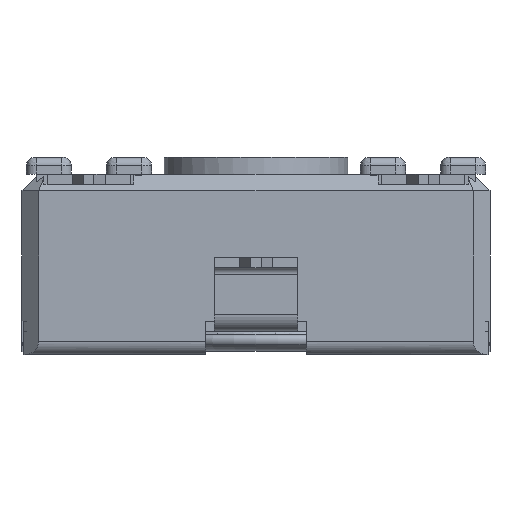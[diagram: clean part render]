
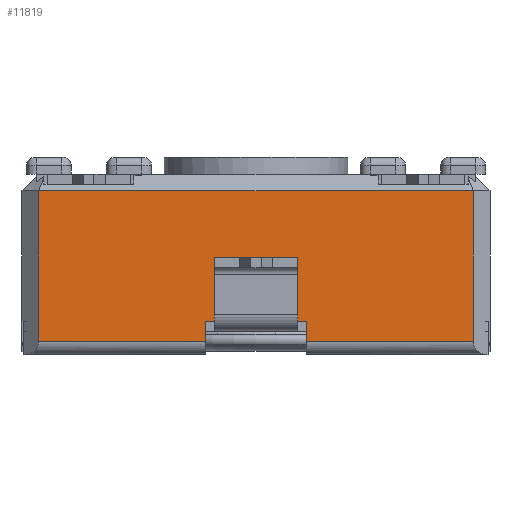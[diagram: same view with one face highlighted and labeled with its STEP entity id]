
A CAD part, front view. The second image highlights one B-rep face of the part: STEP entity #11819.
In plain terms, the highlighted planar face has unit normal (0, -1, 0).
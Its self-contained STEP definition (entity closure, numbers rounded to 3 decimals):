
#675=FACE_OUTER_BOUND('',#1268,.T.);
#1268=EDGE_LOOP('',(#9460,#9461,#9462,#9463,#9464,#9465,#9466,#9467,#9468,
#9469));
#1861=LINE('',#16212,#3104);
#2003=LINE('',#16546,#3246);
#2506=LINE('',#17957,#3749);
#2514=LINE('',#17974,#3757);
#2530=LINE('',#18014,#3773);
#2531=LINE('',#18019,#3774);
#2801=LINE('',#18793,#4044);
#2811=LINE('',#18811,#4054);
#2828=LINE('',#18855,#4071);
#2832=LINE('',#18861,#4075);
#3104=VECTOR('',#13025,10.);
#3246=VECTOR('',#13319,10.);
#3749=VECTOR('',#14492,10.);
#3757=VECTOR('',#14504,10.);
#3773=VECTOR('',#14540,10.);
#3774=VECTOR('',#14547,10.);
#4044=VECTOR('',#15261,10.);
#4054=VECTOR('',#15281,10.);
#4071=VECTOR('',#15322,10.);
#4075=VECTOR('',#15330,10.);
#4358=VERTEX_POINT('',#16210);
#4359=VERTEX_POINT('',#16211);
#4475=VERTEX_POINT('',#16545);
#4903=VERTEX_POINT('',#17954);
#4904=VERTEX_POINT('',#17956);
#4911=VERTEX_POINT('',#17972);
#4925=VERTEX_POINT('',#18013);
#4926=VERTEX_POINT('',#18017);
#5176=VERTEX_POINT('',#18792);
#5184=VERTEX_POINT('',#18853);
#5435=EDGE_CURVE('',#4358,#4359,#1861,.T.);
#5608=EDGE_CURVE('',#4475,#4358,#2003,.T.);
#6252=EDGE_CURVE('',#4903,#4904,#2506,.T.);
#6261=EDGE_CURVE('',#4903,#4911,#2514,.T.);
#6281=EDGE_CURVE('',#4475,#4925,#2530,.T.);
#6284=EDGE_CURVE('',#4925,#4926,#2531,.T.);
#6661=EDGE_CURVE('',#5176,#4904,#2801,.T.);
#6671=EDGE_CURVE('',#4359,#5176,#2811,.T.);
#6689=EDGE_CURVE('',#5184,#4911,#2828,.T.);
#6693=EDGE_CURVE('',#4926,#5184,#2832,.T.);
#9460=ORIENTED_EDGE('',*,*,#6252,.F.);
#9461=ORIENTED_EDGE('',*,*,#6261,.T.);
#9462=ORIENTED_EDGE('',*,*,#6689,.F.);
#9463=ORIENTED_EDGE('',*,*,#6693,.F.);
#9464=ORIENTED_EDGE('',*,*,#6284,.F.);
#9465=ORIENTED_EDGE('',*,*,#6281,.F.);
#9466=ORIENTED_EDGE('',*,*,#5608,.T.);
#9467=ORIENTED_EDGE('',*,*,#5435,.T.);
#9468=ORIENTED_EDGE('',*,*,#6671,.T.);
#9469=ORIENTED_EDGE('',*,*,#6661,.T.);
#10715=PLANE('',#12691);
#11819=ADVANCED_FACE('',(#675),#10715,.T.);
#12691=AXIS2_PLACEMENT_3D('',#18860,#15328,#15329);
#13025=DIRECTION('',(1.,0.,0.));
#13319=DIRECTION('',(1.,0.,0.));
#14492=DIRECTION('',(-1.,0.,0.));
#14504=DIRECTION('',(0.,0.,1.));
#14540=DIRECTION('',(0.,0.,-1.));
#14547=DIRECTION('',(-1.,0.,0.));
#15261=DIRECTION('',(0.,0.,-1.));
#15281=DIRECTION('',(1.,0.,0.));
#15322=DIRECTION('',(1.,0.,0.));
#15328=DIRECTION('center_axis',(0.,-1.,0.));
#15329=DIRECTION('ref_axis',(1.,0.,0.));
#15330=DIRECTION('',(0.,0.,1.));
#16210=CARTESIAN_POINT('',(-11.405,0.3,0.));
#16211=CARTESIAN_POINT('',(-8.905,0.3,0.));
#16212=CARTESIAN_POINT('',(-16.655,0.3,0.));
#16545=CARTESIAN_POINT('',(-11.655,0.3,0.));
#16546=CARTESIAN_POINT('',(-16.655,0.3,0.));
#17954=CARTESIAN_POINT('',(-3.655,0.3,-0.6));
#17956=CARTESIAN_POINT('',(-8.655,0.3,-0.6));
#17957=CARTESIAN_POINT('',(-11.325,0.3,-0.6));
#17972=CARTESIAN_POINT('',(-3.655,0.3,3.9));
#17974=CARTESIAN_POINT('',(-3.655,0.3,0.));
#18013=CARTESIAN_POINT('',(-11.655,0.3,-0.6));
#18014=CARTESIAN_POINT('',(-11.655,0.3,-0.3));
#18017=CARTESIAN_POINT('',(-16.655,0.3,-0.6));
#18019=CARTESIAN_POINT('',(-15.484,0.3,-0.6));
#18792=CARTESIAN_POINT('',(-8.655,0.3,0.));
#18793=CARTESIAN_POINT('',(-8.655,0.3,0.));
#18811=CARTESIAN_POINT('',(-16.655,0.3,0.));
#18853=CARTESIAN_POINT('',(-16.655,0.3,3.9));
#18855=CARTESIAN_POINT('',(-13.405,0.3,3.9));
#18860=CARTESIAN_POINT('Origin',(-16.655,0.3,0.));
#18861=CARTESIAN_POINT('',(-16.655,0.3,0.));
